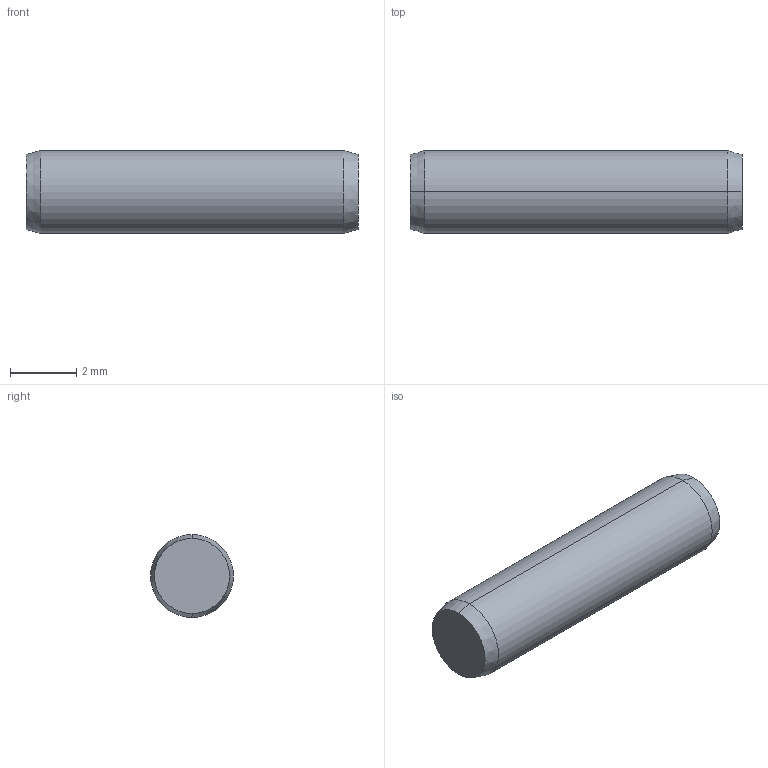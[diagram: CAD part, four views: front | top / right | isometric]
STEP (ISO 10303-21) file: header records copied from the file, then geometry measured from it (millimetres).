
FILE_DESCRIPTION (( 'STEP AP203' ), '1' );
FILE_NAME ('P1206.025-010.step', '2017-06-14T07:59:56', ( 'User' ), ( '' ), 'SwSTEP 2.0', 'SolidWorks 2009', '' );
FILE_SCHEMA (( 'CONFIG_CONTROL_DESIGN' ));
Length unit declared in the file: millimetre
Products named in the file (1): P1206.025-010
Bounding box: 10 x 2.5 x 2.5 mm (x, y, z)
Volume: 48.7 mm3; surface area: 86.5 mm2
Topology: 1 solids, 1 shells, 8 faces, 14 edges, 8 vertices
Faces by surface type: cone 4, cylinder 2, plane 2
Entity records: 271 total; most frequent: DIRECTION 40, CARTESIAN_POINT 31, ORIENTED_EDGE 28, AXIS2_PLACEMENT_3D 17, EDGE_CURVE 14, VERTEX_POINT 8, ADVANCED_FACE 8, EDGE_LOOP 8
